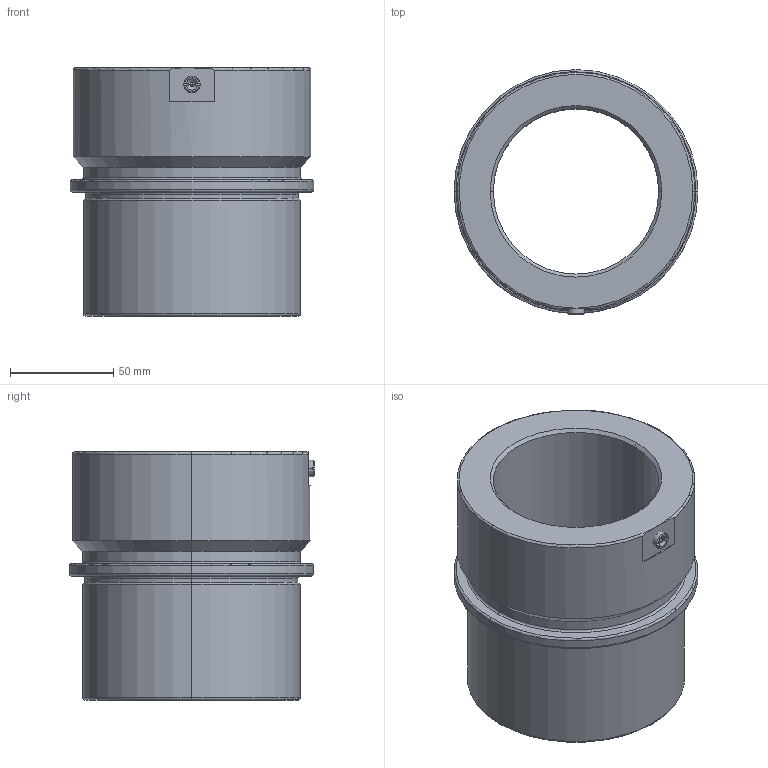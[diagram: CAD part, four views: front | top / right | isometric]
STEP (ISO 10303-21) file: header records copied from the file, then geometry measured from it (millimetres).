
FILE_DESCRIPTION(('CATIA V5 STEP Exchange'),'2;1');
FILE_NAME('C:\Users\Utente\Desktop\IO LAVORO\3D X SITO CF\X SITO\744\744-80.stp','2020-12-23T21:05:13+00:00',('none'),('none'),'CATIA Version 5 Release 20 GA (IN-10)','CATIA V5 STEP AP203','none');
FILE_SCHEMA(('CONFIG_CONTROL_DESIGN'));
Length unit declared in the file: millimetre
Products named in the file (1): 744-80
Bounding box: 118 x 118.5 x 120 mm (x, y, z)
Volume: 525840 mm3; surface area: 85427.8 mm2
Topology: 2 solids, 2 shells, 67 faces, 155 edges, 91 vertices
Faces by surface type: cylinder 16, plane 16, cone 16, torus 15, sphere 4
Entity records: 2033 total; most frequent: CARTESIAN_POINT 540, ORIENTED_EDGE 302, DIRECTION 266, AXIS2_PLACEMENT_3D 155, EDGE_CURVE 151, VERTEX_POINT 91, CIRCLE 87, EDGE_LOOP 74
